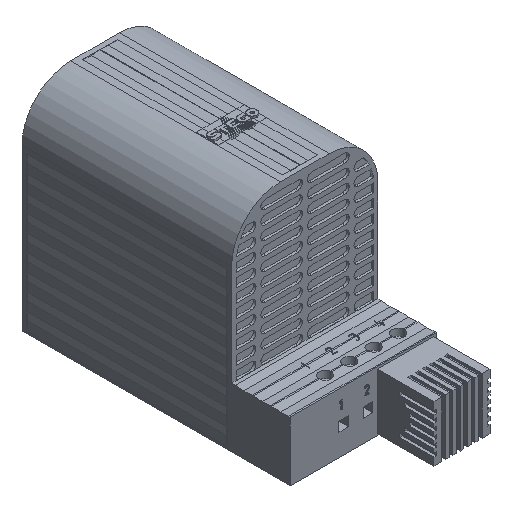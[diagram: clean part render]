
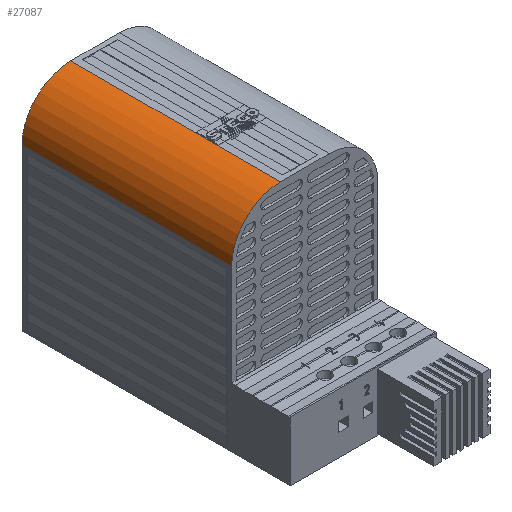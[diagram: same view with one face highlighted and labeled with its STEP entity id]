
A CAD part, isometric view. The second image highlights one B-rep face of the part: STEP entity #27087.
In plain terms, the highlighted cylindrical face has radius 20 mm (diameter 40 mm), a partial arc.
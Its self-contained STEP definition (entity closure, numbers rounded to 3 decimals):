
#1868 = VERTEX_POINT ( 'NONE', #28217 ) ;
#1933 = CYLINDRICAL_SURFACE ( 'NONE', #19547, 20. ) ;
#2099 = VERTEX_POINT ( 'NONE', #26107 ) ;
#2920 = FACE_OUTER_BOUND ( 'NONE', #19174, .T. ) ;
#3012 = CARTESIAN_POINT ( 'NONE',  ( 0., 43.5, 66. ) ) ;
#4380 = VECTOR ( 'NONE', #27821, 1000. ) ;
#6012 = VERTEX_POINT ( 'NONE', #3012 ) ;
#6254 = ORIENTED_EDGE ( 'NONE', *, *, #27213, .F. ) ;
#8552 = EDGE_CURVE ( 'NONE', #20176, #2099, #19473, .T. ) ;
#9325 = AXIS2_PLACEMENT_3D ( 'NONE', #10346, #32208, #13479 ) ;
#9525 = CIRCLE ( 'NONE', #24911, 20. ) ;
#9714 = ORIENTED_EDGE ( 'NONE', *, *, #8552, .F. ) ;
#10085 = VECTOR ( 'NONE', #19885, 1000. ) ;
#10346 = CARTESIAN_POINT ( 'NONE',  ( 20., -42.5, 66. ) ) ;
#12280 = DIRECTION ( 'NONE',  ( 0., 1., 0. ) ) ;
#13479 = DIRECTION ( 'NONE',  ( 0., 0., 1. ) ) ;
#13675 = LINE ( 'NONE', #21523, #4380 ) ;
#18401 = LINE ( 'NONE', #38573, #10085 ) ;
#19174 = EDGE_LOOP ( 'NONE', ( #9714, #31765, #31757, #6254 ) ) ;
#19473 = CIRCLE ( 'NONE', #9325, 20. ) ;
#19547 = AXIS2_PLACEMENT_3D ( 'NONE', #33393, #23948, #36392 ) ;
#19885 = DIRECTION ( 'NONE',  ( 0., -1., 0. ) ) ;
#20176 = VERTEX_POINT ( 'NONE', #25430 ) ;
#21523 = CARTESIAN_POINT ( 'NONE',  ( 0., 43.5, 66. ) ) ;
#22772 = EDGE_CURVE ( 'NONE', #1868, #20176, #18401, .T. ) ;
#23502 = EDGE_CURVE ( 'NONE', #6012, #1868, #9525, .T. ) ;
#23948 = DIRECTION ( 'NONE',  ( 0., 1., 0. ) ) ;
#24911 = AXIS2_PLACEMENT_3D ( 'NONE', #31022, #12280, #34178 ) ;
#25430 = CARTESIAN_POINT ( 'NONE',  ( 20., -42.5, 86. ) ) ;
#26107 = CARTESIAN_POINT ( 'NONE',  ( 0., -42.5, 66. ) ) ;
#27087 = ADVANCED_FACE ( 'NONE', ( #2920 ), #1933, .T. ) ;
#27213 = EDGE_CURVE ( 'NONE', #2099, #6012, #13675, .T. ) ;
#27821 = DIRECTION ( 'NONE',  ( 0., 1., 0. ) ) ;
#28217 = CARTESIAN_POINT ( 'NONE',  ( 20., 43.5, 86. ) ) ;
#31022 = CARTESIAN_POINT ( 'NONE',  ( 20., 43.5, 66. ) ) ;
#31757 = ORIENTED_EDGE ( 'NONE', *, *, #23502, .F. ) ;
#31765 = ORIENTED_EDGE ( 'NONE', *, *, #22772, .F. ) ;
#32208 = DIRECTION ( 'NONE',  ( 0., -1., 0. ) ) ;
#33393 = CARTESIAN_POINT ( 'NONE',  ( 20., -42.5, 66. ) ) ;
#34178 = DIRECTION ( 'NONE',  ( 0., 0., -1. ) ) ;
#36392 = DIRECTION ( 'NONE',  ( 0., 0., 1. ) ) ;
#38573 = CARTESIAN_POINT ( 'NONE',  ( 20., -42.5, 86. ) ) ;
